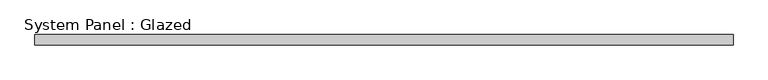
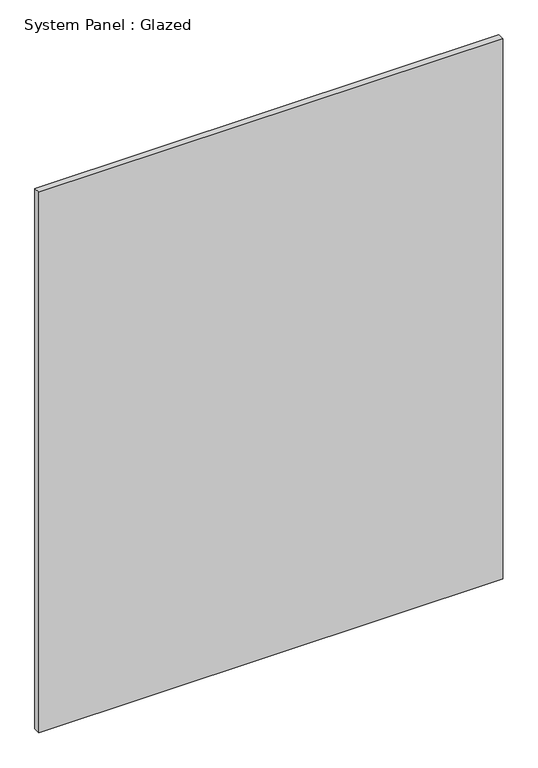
"""IFC4 building model written with IfcOpenShell, lengths in millimetres: plate geometry, System Panel : Glazed."""

from ifc_helpers import new_model, si_unit, origin, origin_with_axes, place, context, project, spatial, polyline, outline, extrude, source, transform, mapped, element, save


def system_panel_glazed_4897d592(model_context):
    return source(origin(), model_context, "Body", "SweptSolid", [
        extrude(outline(polyline([(952.3509533, -14.0), (-952.3509533, -14.0), (-952.3509533, 14.0), (952.3509533, 14.0), (952.3509533, -14.0)])), origin_with_axes(), (0.0, 0.0, 1.0), 2347.0),
    ])


if __name__ == "__main__":
    model = new_model("IFC4")
    model_context = context("Model", 3, world=origin())
    ifc_project = project(units=[si_unit("LENGTHUNIT", "METRE", prefix="MILLI")], contexts=[model_context])
    site = spatial("IfcSite", under=ifc_project)
    building = spatial("IfcBuilding", under=site)
    placement = place(None, origin())
    system_panel_glazed_shape = system_panel_glazed_4897d592(model_context)
    element("IfcPlate", 1, ObjectType="System Panel : Glazed", at=placement, inside=building, context=model_context, shape_type="MappedRepresentation", body=[
        mapped(system_panel_glazed_shape, transform((0.0, 0.0, 0.0), x_axis=(1.0, 0.0, 0.0), y_axis=(0.0, 1.0, 0.0), z_axis=(0.0, 0.0, 1.0))),
    ])
    save(model, "model.ifc")
